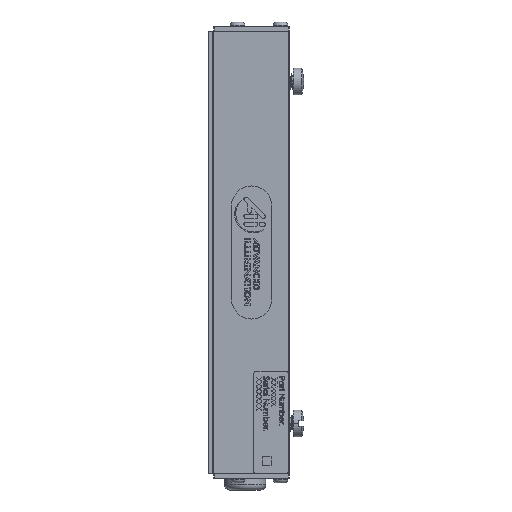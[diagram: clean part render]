
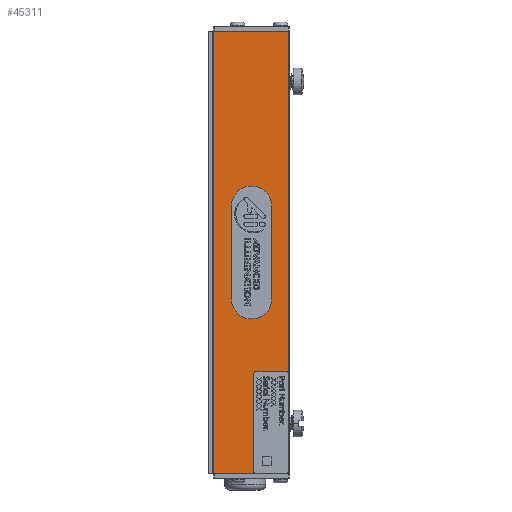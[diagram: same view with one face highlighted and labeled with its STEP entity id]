
A CAD part, left-side view. The second image highlights one B-rep face of the part: STEP entity #45311.
In plain terms, the highlighted planar face has unit normal (-1, 0, 0).
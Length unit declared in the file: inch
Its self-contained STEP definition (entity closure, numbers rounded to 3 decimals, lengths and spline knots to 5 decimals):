
#1848 = VERTEX_POINT ( 'NONE', #29898 ) ;
#3472 = ORIENTED_EDGE ( 'NONE', *, *, #16323, .F. ) ;
#3806 = CARTESIAN_POINT ( 'NONE',  ( -0.665, 1.105, -3.2375 ) ) ;
#4965 = VERTEX_POINT ( 'NONE', #3806 ) ;
#5580 = EDGE_CURVE ( 'NONE', #24652, #1848, #6109, .T. ) ;
#5588 = EDGE_CURVE ( 'NONE', #4965, #24652, #6578, .T. ) ;
#6060 = VECTOR ( 'NONE', #10144, 39.37008 ) ;
#6109 = LINE ( 'NONE', #8517, #6060 ) ;
#6578 = LINE ( 'NONE', #11504, #6620 ) ;
#6620 = VECTOR ( 'NONE', #10898, 39.37008 ) ;
#8064 = DIRECTION ( 'NONE',  ( 0., -1., 0. ) ) ;
#8517 = CARTESIAN_POINT ( 'NONE',  ( -0.665, 0.015, 3.2375 ) ) ;
#10075 = CARTESIAN_POINT ( 'NONE',  ( -0.665, 0., 3.2375 ) ) ;
#10144 = DIRECTION ( 'NONE',  ( 0., 0., 1. ) ) ;
#10217 = CARTESIAN_POINT ( 'NONE',  ( -0.665, 0.015, -3.2375 ) ) ;
#10789 = DIRECTION ( 'NONE',  ( 1., 0., 0. ) ) ;
#10898 = DIRECTION ( 'NONE',  ( 0., -1., 0. ) ) ;
#11504 = CARTESIAN_POINT ( 'NONE',  ( -0.665, 0., -3.2375 ) ) ;
#16323 = EDGE_CURVE ( 'NONE', #32073, #1848, #30734, .T. ) ;
#18663 = ORIENTED_EDGE ( 'NONE', *, *, #5580, .T. ) ;
#20924 = FACE_OUTER_BOUND ( 'NONE', #37046, .T. ) ;
#22158 = CARTESIAN_POINT ( 'NONE',  ( -0.665, 0., 3.2375 ) ) ;
#23508 = ORIENTED_EDGE ( 'NONE', *, *, #27721, .T. ) ;
#24652 = VERTEX_POINT ( 'NONE', #10217 ) ;
#27464 = CARTESIAN_POINT ( 'NONE',  ( -0.665, 1.105, 3.2375 ) ) ;
#27721 = EDGE_CURVE ( 'NONE', #32073, #4965, #46599, .T. ) ;
#29898 = CARTESIAN_POINT ( 'NONE',  ( -0.665, 0.015, 3.2375 ) ) ;
#30643 = VECTOR ( 'NONE', #8064, 39.37008 ) ;
#30734 = LINE ( 'NONE', #10075, #30643 ) ;
#31311 = ORIENTED_EDGE ( 'NONE', *, *, #5588, .T. ) ;
#31810 = AXIS2_PLACEMENT_3D ( 'NONE', #22158, #10789, #37989 ) ;
#32073 = VERTEX_POINT ( 'NONE', #27464 ) ;
#35015 = CARTESIAN_POINT ( 'NONE',  ( -0.665, 1.105, 3.2375 ) ) ;
#36493 = DIRECTION ( 'NONE',  ( 0., 0., -1. ) ) ;
#37046 = EDGE_LOOP ( 'NONE', ( #3472, #23508, #31311, #18663 ) ) ;
#37989 = DIRECTION ( 'NONE',  ( 0., 0., -1. ) ) ;
#45311 = ADVANCED_FACE ( 'NONE', ( #20924 ), #49751, .F. ) ;
#46599 = LINE ( 'NONE', #35015, #46709 ) ;
#46709 = VECTOR ( 'NONE', #36493, 39.37008 ) ;
#49751 = PLANE ( 'NONE',  #31810 ) ;
